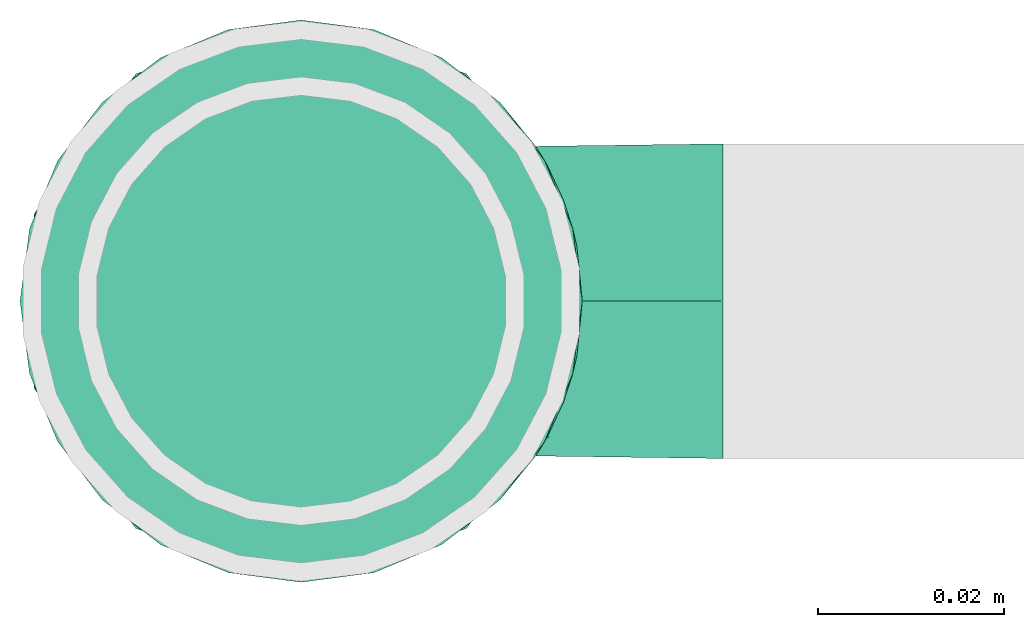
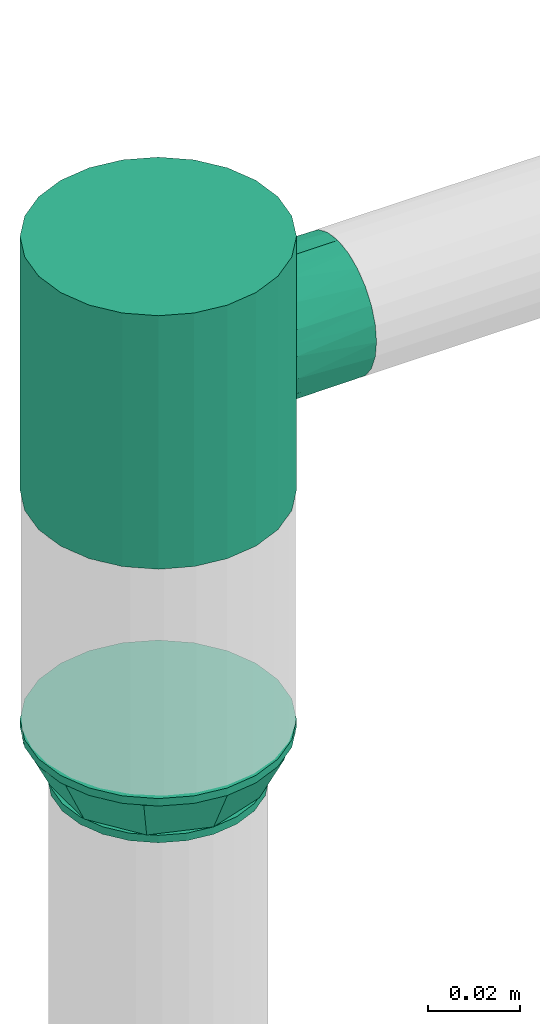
# One storey, part 2 of 2: 2 flow fittings.
"""IFC2X3 building model written with IfcOpenShell, lengths in millimetres."""

from ifc_helpers import new_model, entity, si_unit, converted_unit, derived_unit, direction, frame, origin_with_axes, place, context, subcontext, project, spatial, open_shell, surface_model, source, transform, mapped, type_object, element, save


model = new_model("IFC2X3")

# Units and contexts
model_context = context("Model", 3, precision=0.01, world=frame((0.0, 4.29681676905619e-09, 0.0)), true_north=direction((4.01073788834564e-13, 1.0)))
plan_context = context("Plan", 3, precision=0.01, world=frame((0.0, 4.29681676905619e-09, 0.0)), true_north=direction((4.01073788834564e-13, 1.0)))
body_context = subcontext(model_context, "Body", "Model", "MODEL_VIEW")
ifc_project = project(units=[converted_unit("PLANEANGLEUNIT", "DEGREE", entity("IfcPositiveLengthMeasure", 0.0174532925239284), si_unit("PLANEANGLEUNIT", "RADIAN"), dimensions=[0, 0, 0, 0, 0, 0, 0]), si_unit("AREAUNIT", "SQUARE_METRE"), si_unit("LENGTHUNIT", "METRE", prefix="MILLI"), si_unit("MASSUNIT", "GRAM", prefix="KILO"), si_unit("POWERUNIT", "WATT"), si_unit("PRESSUREUNIT", "PASCAL", prefix="KILO"), si_unit("FORCEUNIT", "NEWTON", prefix="KILO"), si_unit("ELECTRICVOLTAGEUNIT", "VOLT"), si_unit("ELECTRICCURRENTUNIT", "AMPERE"), si_unit("THERMODYNAMICTEMPERATUREUNIT", "DEGREE_CELSIUS"), si_unit("TIMEUNIT", "SECOND"), si_unit("VOLUMEUNIT", "CUBIC_METRE"), derived_unit("LINEARVELOCITYUNIT", [(si_unit("LENGTHUNIT", "METRE"), 1), (si_unit("TIMEUNIT", "SECOND"), -1)]), derived_unit("VOLUMETRICFLOWRATEUNIT", [(si_unit("VOLUMEUNIT", "CUBIC_METRE"), 1), (si_unit("TIMEUNIT", "SECOND"), -1)]), derived_unit("THERMALTRANSMITTANCEUNIT", [(si_unit("POWERUNIT", "WATT"), 1), (si_unit("THERMODYNAMICTEMPERATUREUNIT", "KELVIN"), -1), (si_unit("AREAUNIT", "SQUARE_METRE"), -1)]), derived_unit("SOUNDPRESSUREUNIT", [(si_unit("PRESSUREUNIT", "PASCAL"), 1)])], contexts=[model_context, plan_context])

# Site, building, storey
site_placement = place(None, frame((0.0, -4.29681676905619e-09, 0.0), z_axis=(0.0, 0.0, 1.0), x_axis=(1.0, 0.0, 0.0)))
site = spatial("IfcSite", under=ifc_project, at=site_placement, CompositionType="ELEMENT")
building_placement = place(site_placement, frame((0.0, 4.29681676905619e-09, 0.0), z_axis=(0.0, 0.0, 1.0), x_axis=(1.0, 0.0, 0.0)))
building = spatial("IfcBuilding", under=site, at=building_placement, Name="mc-building", CompositionType="ELEMENT")
storey_placement = place(building_placement, frame((0.0, 0.0, 207370.0), z_axis=(0.0, 0.0, 1.0), x_axis=(1.0, 0.0, 0.0)))
storey = spatial("IfcBuildingStorey", under=building, at=storey_placement, Name="Nivå E", CompositionType="ELEMENT", Elevation=207370.0)

# Flow fittings
pipe_fitting_type_1 = type_object("IfcPipeFittingType", Name="magi_pipe_fe_reducer_centric_short_NOR", PredefinedType="TRANSITION")
shared_shape_1 = source(origin_with_axes(), body_context, "Body", "SurfaceModel", [
    surface_model("IfcShellBasedSurfaceModel", [(-2.0, 0.0, 24.2), (-2.0, 6.26342, 23.37541), (-2.0, 12.1, 20.95781), (-2.0, 17.11198, 17.11198), (-2.0, 24.2, 0.0), (-2.0, 20.95781, 12.1), (-2.0, -23.37541, 6.26342), (-2.0, -17.11198, -17.11198), (-2.0, -6.26342, 23.37541), (-2.0, -17.11198, 17.11198), (-2.0, -12.1, 20.95781), (-2.0, -20.95781, 12.1), (-2.0, -24.2, 0.0), (-2.0, 23.37541, 6.26342), (-2.0, 23.37541, -6.26342), (-2.0, 6.26342, -23.37541), (-2.0, 17.11198, -17.11198), (-2.0, 20.95781, -12.1), (-2.0, 12.1, -20.95781), (-2.0, -23.37541, -6.26342), (-2.0, -20.95781, -12.1), (-2.0, -6.26342, -23.37541), (-2.0, -12.1, -20.95781), (-2.0, 0.0, -24.2), (0.0, 24.2, 0.0), (0.0, 6.26342, -23.37541), (0.0, 12.1, -20.95781), (0.0, 23.37541, -6.26342), (0.0, 17.11198, -17.11198), (0.0, 20.95781, -12.1), (0.0, -24.2, 0.0), (0.0, -12.1, -20.95781), (0.0, -6.26342, -23.37541), (0.0, 0.0, -24.2), (0.0, -17.11198, -17.11198), (0.0, -23.37541, -6.26342), (0.0, -20.95781, -12.1), (0.0, 20.95781, 12.1), (0.0, 17.11198, 17.11198), (0.0, 12.1, 20.95781), (0.0, 6.26342, 23.37541), (0.0, 0.0, 24.2), (0.0, -23.37541, 6.26342), (0.0, -17.11198, 17.11198), (0.0, -20.95781, 12.1), (0.0, -6.26342, 23.37541), (0.0, -12.1, 20.95781), (0.0, 23.37541, 6.26342), (14.0, 15.1, -26.15397), (14.0, 15.1, 26.15397), (14.0, 7.81634, -29.17096), (14.0, 30.2, 0.0), (14.0, 21.35462, -21.35462), (14.0, 26.15397, -15.1), (14.0, 29.17096, -7.81634), (14.0, -15.1, -26.15397), (14.0, 0.0, -30.2), (14.0, -7.81634, -29.17096), (14.0, -21.35462, -21.35462), (14.0, -29.17096, -7.81634), (14.0, -26.15397, -15.1), (14.0, -29.17096, 7.81634), (14.0, 21.35462, 21.35462), (14.0, 29.17096, 7.81634), (14.0, 26.15397, 15.1), (14.0, 7.81634, 29.17096), (14.0, 0.0, 30.2), (14.0, -21.35462, 21.35462), (14.0, -7.81634, 29.17096), (14.0, -26.15397, 15.1), (14.0, -30.2, 0.0), (14.0, -15.1, 26.15397), (12.0, 0.0, 30.2), (12.0, 7.81634, 29.17096), (12.0, 15.1, 26.15397), (12.0, -29.17096, 7.81634), (12.0, 21.35462, 21.35462), (12.0, 26.15397, 15.1), (12.0, 29.17096, 7.81634), (12.0, 29.17096, -7.81634), (12.0, -7.81634, 29.17096), (12.0, -21.35462, 21.35462), (12.0, -15.1, 26.15397), (12.0, -26.15397, 15.1), (12.0, -29.17096, -7.81634), (12.0, -30.2, 0.0), (12.0, 30.2, 0.0), (12.0, 26.15397, -15.1), (12.0, 7.81634, -29.17096), (12.0, 21.35462, -21.35462), (12.0, 15.1, -26.15397), (12.0, -15.1, -26.15397), (12.0, -21.35462, -21.35462), (12.0, -26.15397, -15.1), (12.0, 0.0, -30.2), (12.0, -7.81634, -29.17096), (12.0, 9.33231, 28.72191), (12.0, -9.33231, 28.72191), (12.0, 24.43231, -17.75111), (12.0, 24.43231, 17.75111), (12.0, -24.43231, 17.75111), (12.0, -24.43231, -17.75111), (12.0, -9.33231, -28.72191), (12.0, 9.33231, -28.72191), (0.0, -7.47821, 23.01557), (0.0, 7.47821, 23.01557), (0.0, -19.57821, 14.2244), (0.0, -19.57821, -14.2244), (0.0, 19.57821, 14.2244), (0.0, 19.57821, -14.2244), (0.0, 7.47821, -23.01557), (0.0, -7.47821, -23.01557), (12.0, -27.31616, -8.87556), (0.0, -21.8891, -7.1122), (0.0, -13.52821, -18.61999), (12.0, -16.88231, -23.23651), (12.0, 0.0, -28.72191), (0.0, 0.0, -23.01557), (12.0, 27.31616, -8.87556), (12.0, 16.88231, -23.23651), (0.0, 13.52821, -18.61999), (0.0, 22.02177, -6.7039), (12.0, 27.31616, 8.87556), (0.0, 21.8891, 7.1122), (0.0, 13.52821, 18.61999), (12.0, 16.88231, 23.23651), (12.0, 0.0, 28.72191), (0.0, 0.0, 23.01557), (12.0, -27.31616, 8.87556), (12.0, -16.88231, 23.23651), (0.0, -13.52821, 18.61999), (0.0, -22.02177, 6.7039)], [open_shell([[[0, 1, 2]], [[0, 2, 3]], [[4, 3, 5]], [[6, 0, 7]], [[0, 3, 7]], [[8, 9, 10]], [[8, 0, 9]], [[9, 6, 11]], [[0, 6, 9]], [[6, 7, 12]], [[4, 5, 13]], [[3, 14, 15]], [[16, 14, 17]], [[18, 15, 14]], [[18, 14, 16]], [[15, 7, 3]], [[19, 7, 20]], [[12, 7, 19]], [[15, 21, 22]], [[22, 7, 15]], [[21, 15, 23]], [[14, 3, 4]], [[24, 25, 26]], [[27, 26, 28]], [[27, 24, 26]], [[27, 28, 29]], [[25, 30, 31]], [[25, 32, 33]], [[25, 31, 32]], [[34, 35, 36]], [[34, 31, 30]], [[34, 30, 35]], [[25, 24, 37]], [[37, 38, 25]], [[25, 38, 30]], [[39, 40, 41]], [[39, 41, 38]], [[30, 38, 41]], [[42, 43, 44]], [[45, 42, 30]], [[43, 45, 46]], [[45, 43, 42]], [[30, 41, 45]], [[24, 47, 37]], [[19, 35, 12]], [[20, 36, 19]], [[31, 7, 22]], [[20, 7, 34]], [[32, 22, 21]], [[19, 36, 35]], [[35, 30, 12]], [[32, 31, 22]], [[34, 7, 31]], [[34, 36, 20]], [[33, 32, 21]], [[21, 23, 33]], [[15, 25, 23]], [[18, 26, 15]], [[29, 16, 17]], [[18, 16, 28]], [[27, 17, 14]], [[18, 28, 26]], [[26, 25, 15]], [[24, 27, 14]], [[29, 17, 27]], [[29, 28, 16]], [[4, 24, 14]], [[23, 25, 33]], [[13, 47, 4]], [[5, 37, 13]], [[39, 3, 2]], [[5, 3, 38]], [[40, 2, 1]], [[13, 37, 47]], [[47, 24, 4]], [[40, 39, 2]], [[38, 3, 39]], [[38, 37, 5]], [[41, 40, 1]], [[1, 0, 41]], [[8, 45, 0]], [[10, 46, 8]], [[44, 9, 11]], [[10, 9, 43]], [[42, 11, 6]], [[10, 43, 46]], [[46, 45, 8]], [[30, 42, 6]], [[44, 11, 42]], [[44, 43, 9]], [[12, 30, 6]], [[0, 45, 41]], [[48, 49, 50]], [[51, 48, 52]], [[53, 54, 51]], [[53, 51, 52]], [[55, 50, 49]], [[56, 55, 57]], [[56, 50, 55]], [[58, 59, 60]], [[59, 58, 55]], [[55, 61, 59]], [[51, 62, 48]], [[63, 64, 62]], [[62, 49, 48]], [[49, 65, 66]], [[55, 49, 67]], [[68, 49, 66]], [[61, 67, 69]], [[70, 59, 61]], [[67, 68, 71]], [[61, 55, 67]], [[68, 67, 49]], [[63, 62, 51]], [[72, 73, 74]], [[75, 72, 74]], [[76, 77, 78]], [[74, 76, 75]], [[76, 79, 75]], [[80, 81, 82]], [[80, 72, 81]], [[81, 75, 83]], [[72, 75, 81]], [[75, 84, 85]], [[86, 76, 78]], [[79, 87, 75]], [[87, 88, 75]], [[89, 90, 88]], [[89, 88, 87]], [[88, 91, 75]], [[84, 92, 93]], [[92, 84, 91]], [[91, 94, 95]], [[84, 75, 91]], [[88, 94, 91]], [[79, 76, 86]], [[84, 59, 85]], [[93, 60, 84]], [[55, 92, 91]], [[93, 92, 58]], [[57, 91, 95]], [[84, 60, 59]], [[59, 70, 85]], [[57, 55, 91]], [[58, 92, 55]], [[58, 60, 93]], [[56, 57, 95]], [[95, 94, 56]], [[88, 50, 94]], [[90, 48, 88]], [[53, 89, 87]], [[90, 89, 52]], [[54, 87, 79]], [[90, 52, 48]], [[48, 50, 88]], [[51, 54, 79]], [[53, 87, 54]], [[53, 52, 89]], [[86, 51, 79]], [[94, 50, 56]], [[78, 63, 86]], [[77, 64, 78]], [[49, 76, 74]], [[77, 76, 62]], [[65, 74, 73]], [[78, 64, 63]], [[63, 51, 86]], [[65, 49, 74]], [[62, 76, 49]], [[62, 64, 77]], [[66, 65, 73]], [[73, 72, 66]], [[80, 68, 72]], [[82, 71, 80]], [[69, 81, 83]], [[82, 81, 67]], [[61, 83, 75]], [[82, 67, 71]], [[71, 68, 80]], [[70, 61, 75]], [[69, 83, 61]], [[69, 67, 81]], [[85, 70, 75]], [[72, 68, 66]], [[85, 96, 97]], [[96, 98, 99]], [[86, 99, 98]], [[85, 97, 100]], [[85, 101, 98]], [[98, 102, 103]], [[102, 98, 101]], [[85, 98, 96]], [[104, 105, 24]], [[106, 107, 30]], [[104, 107, 106]], [[24, 105, 108]], [[24, 109, 110]], [[107, 110, 111]], [[110, 107, 24]], [[24, 107, 104]], [[112, 30, 113]], [[113, 107, 101]], [[102, 114, 111]], [[30, 112, 85]], [[113, 101, 112]], [[115, 107, 114]], [[116, 102, 111]], [[117, 103, 116]], [[103, 117, 110]], [[107, 115, 101]], [[102, 115, 114]], [[109, 118, 98]], [[110, 119, 103]], [[120, 98, 119]], [[121, 86, 118]], [[119, 110, 120]], [[121, 24, 86]], [[120, 109, 98]], [[116, 111, 117]], [[118, 109, 121]], [[122, 24, 123]], [[123, 108, 99]], [[96, 124, 105]], [[24, 122, 86]], [[123, 99, 122]], [[125, 108, 124]], [[126, 96, 105]], [[127, 97, 126]], [[97, 127, 104]], [[108, 125, 99]], [[96, 125, 124]], [[106, 128, 100]], [[104, 129, 97]], [[130, 100, 129]], [[131, 85, 128]], [[129, 104, 130]], [[131, 30, 85]], [[130, 106, 100]], [[126, 105, 127]], [[128, 106, 131]]])]),
])
flow_fitting_1_placement = place(storey_placement, frame((596244.66498, 405204.64073, -88.9500000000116), z_axis=(1.0, 0.0, 0.0), x_axis=(0.0, 0.0, 1.0)))
element("IfcFlowFitting", 1, at=flow_fitting_1_placement, inside=storey, type_object=pipe_fitting_type_1, Name="magi_pipe_fe_reducer_centric_short_NOR", context=body_context, shape_type="MappedRepresentation", body=[
    mapped(shared_shape_1, transform((0.0, 0.0, 0.0), scale=1.0)),
])
pipe_fitting_type_2 = type_object("IfcPipeFittingType", Name="magi_pipe_fe_tee_centric_90_NOR", PredefinedType="JUNCTION")
shared_shape_2 = source(origin_with_axes(), body_context, "Body", "SurfaceModel", [
    surface_model("IfcShellBasedSurfaceModel", [(-33.8, 15.1, -26.15397), (-33.8, 7.81634, -29.17096), (-33.8, 0.0, -30.2), (-33.8, 29.17096, -7.81634), (-33.8, 26.15397, -15.1), (-33.8, 21.35462, -21.35462), (-33.8, 30.2, 0.0), (-33.8, -30.2, 0.0), (-33.8, -15.1, -26.15397), (-33.8, -21.35462, -21.35462), (-33.8, -7.81634, -29.17096), (-33.8, -26.15397, -15.1), (-33.8, -29.17096, -7.81634), (-33.8, 26.15397, 15.1), (-33.8, 29.17096, 7.81634), (-33.8, 15.1, 26.15397), (-33.8, -21.35462, 21.35462), (-33.8, 21.35462, 21.35462), (-33.8, 7.81634, 29.17096), (-33.8, -29.17096, 7.81634), (-33.8, -26.15397, 15.1), (-33.8, -7.81634, 29.17096), (-33.8, 0.0, 30.2), (-33.8, -15.1, 26.15397), (33.8, 29.17096, -7.81634), (33.8, 0.0, -30.2), (33.8, 7.81634, -29.17096), (33.8, 21.35462, -21.35462), (33.8, 15.1, -26.15397), (33.8, 26.15397, -15.1), (33.8, -30.2, 0.0), (33.8, -7.81634, -29.17096), (33.8, -21.35462, -21.35462), (33.8, -15.1, -26.15397), (33.8, -29.17096, -7.81634), (33.8, -26.15397, -15.1), (33.8, 30.2, 0.0), (33.8, 29.17096, 7.81634), (33.8, 26.15397, 15.1), (33.8, -29.17096, 7.81634), (33.8, 15.1, 26.15397), (33.8, 7.81634, 29.17096), (33.8, 21.35462, 21.35462), (33.8, -21.35462, 21.35462), (33.8, -26.15397, 15.1), (33.8, -15.1, 26.15397), (33.8, 0.0, 30.2), (33.8, -7.81634, 29.17096), (33.8, -29.68548, 3.90817), (15.846, -29.62306, 5.87488), (16.373, -29.91153, 2.93744), (12.91037, -28.16217, 10.90561), (2.99213, -25.2068, 16.63301), (16.9, -30.2, 0.0), (33.8, -27.66246, 11.45817), (8.50854, -26.43531, 14.60187), (-8.51006, -26.43579, 14.60099), (-33.8, -27.66246, 11.45817), (-12.91447, -28.16405, 10.90075), (-15.84655, -29.62335, 5.87341), (-33.8, -29.68548, 3.90817), (-16.37327, -29.91168, 2.93671), (-16.9, -30.2, 0.0), (-2.99705, -25.20739, 16.63213), (2.99213, -25.2068, -16.63301), (-16.37327, -29.91168, -2.93671), (8.50854, -26.43531, -14.60187), (33.8, -27.66246, -11.45817), (16.373, -29.91153, -2.93744), (-33.8, -29.68548, -3.90817), (-15.84655, -29.62335, -5.87341), (15.846, -29.62306, -5.87488), (12.91037, -28.16217, -10.90561), (33.8, -29.68548, -3.90817), (-2.99705, -25.20739, -16.63213), (-8.51006, -26.43579, -14.60099), (-12.91447, -28.16405, -10.90075), (-33.8, -27.66246, -11.45817), (4.37404, -45.3, -16.32415), (-16.9, -45.3, 0.0), (0.0, -45.3, -16.9), (14.63583, -45.3, -8.45), (8.45, -45.3, -14.63583), (16.32415, -45.3, -4.37404), (11.9501, -45.3, -11.9501), (-11.9501, -45.3, -11.9501), (-8.45, -45.3, -14.63583), (-4.37404, -45.3, -16.32415), (-14.63583, -45.3, -8.45), (-16.32415, -45.3, -4.37404), (16.9, -45.3, 0.0), (8.45, -45.3, 14.63583), (16.32415, -45.3, 4.37404), (14.63583, -45.3, 8.45), (-8.45, -45.3, 14.63583), (11.9501, -45.3, 11.9501), (4.37404, -45.3, 16.32415), (-16.32415, -45.3, 4.37404), (-11.9501, -45.3, 11.9501), (-14.63583, -45.3, 8.45), (0.0, -45.3, 16.9), (-4.37404, -45.3, 16.32415), (-5.75355, -25.82159, 15.61656), (-0.00246, -25.20709, 16.63257), (5.75034, -25.82105, 15.61744), (5.75034, -25.82105, -15.61744), (-0.00246, -25.20709, -16.63257), (-5.75355, -25.82159, -15.61656)], [open_shell([[[0, 1, 2]], [[3, 0, 2]], [[0, 3, 4]], [[5, 0, 4]], [[6, 2, 7]], [[8, 9, 10]], [[9, 2, 10]], [[11, 12, 9]], [[7, 9, 12]], [[9, 7, 2]], [[6, 3, 2]], [[13, 14, 6]], [[7, 15, 13]], [[7, 16, 15]], [[17, 13, 15]], [[18, 15, 16]], [[19, 20, 7]], [[7, 20, 16]], [[21, 22, 23]], [[16, 23, 22]], [[16, 22, 18]], [[7, 13, 6]], [[24, 25, 26]], [[27, 26, 28]], [[29, 24, 26]], [[29, 26, 27]], [[25, 24, 30]], [[31, 32, 33]], [[32, 31, 34]], [[32, 34, 35]], [[34, 31, 30]], [[31, 25, 30]], [[24, 36, 30]], [[36, 37, 38]], [[39, 36, 38]], [[40, 41, 38]], [[40, 38, 42]], [[43, 38, 41]], [[39, 43, 44]], [[39, 38, 43]], [[45, 46, 47]], [[46, 45, 43]], [[41, 46, 43]], [[36, 39, 30]], [[48, 39, 49]], [[30, 48, 50]], [[39, 51, 49]], [[44, 43, 52]], [[30, 50, 53]], [[51, 54, 55]], [[52, 55, 44]], [[48, 49, 50]], [[43, 16, 52]], [[55, 54, 44]], [[56, 57, 58]], [[59, 60, 61]], [[62, 61, 7]], [[59, 58, 19]], [[56, 63, 20]], [[51, 39, 54]], [[20, 57, 56]], [[20, 63, 16]], [[58, 57, 19]], [[63, 52, 16]], [[7, 61, 60]], [[59, 19, 60]], [[43, 23, 16]], [[22, 47, 46]], [[21, 45, 47]], [[18, 46, 41]], [[38, 37, 14]], [[17, 40, 42]], [[13, 42, 38]], [[41, 40, 15]], [[6, 37, 36]], [[23, 45, 21]], [[21, 47, 22]], [[18, 22, 46]], [[41, 15, 18]], [[15, 40, 17]], [[13, 17, 42]], [[14, 13, 38]], [[37, 6, 14]], [[45, 23, 43]], [[4, 24, 29]], [[3, 36, 24]], [[5, 29, 27]], [[25, 31, 10]], [[1, 28, 26]], [[2, 26, 25]], [[27, 28, 0]], [[8, 31, 33]], [[6, 36, 3]], [[3, 24, 4]], [[5, 4, 29]], [[27, 0, 5]], [[0, 28, 1]], [[2, 1, 26]], [[10, 2, 25]], [[31, 8, 10]], [[33, 9, 8]], [[32, 35, 64]], [[7, 65, 62]], [[66, 64, 35]], [[67, 66, 35]], [[32, 64, 9]], [[53, 68, 30]], [[69, 70, 65]], [[71, 72, 34]], [[71, 73, 68]], [[66, 67, 72]], [[34, 72, 67]], [[74, 75, 11]], [[76, 12, 77]], [[11, 9, 74]], [[76, 77, 75]], [[74, 9, 64]], [[76, 70, 12]], [[71, 34, 73]], [[70, 69, 12]], [[65, 7, 69]], [[30, 68, 73]], [[77, 11, 75]], [[32, 9, 33]], [[78, 79, 80]], [[81, 78, 82]], [[81, 83, 78]], [[81, 82, 84]], [[79, 78, 83]], [[80, 85, 86]], [[86, 87, 80]], [[88, 79, 89]], [[85, 80, 88]], [[79, 88, 80]], [[83, 90, 79]], [[91, 90, 92]], [[91, 92, 93]], [[94, 79, 91]], [[91, 93, 95]], [[94, 91, 96]], [[97, 98, 99]], [[98, 97, 94]], [[94, 100, 101]], [[97, 79, 94]], [[96, 100, 94]], [[91, 79, 90]], [[97, 61, 79]], [[58, 99, 98]], [[97, 99, 59]], [[98, 94, 56]], [[61, 62, 79]], [[59, 99, 58]], [[101, 63, 102]], [[56, 58, 98]], [[100, 52, 103]], [[91, 104, 96]], [[100, 96, 52]], [[50, 49, 92]], [[50, 90, 53]], [[104, 91, 55]], [[102, 94, 101]], [[102, 56, 94]], [[100, 63, 101]], [[97, 59, 61]], [[55, 91, 95]], [[95, 51, 55]], [[52, 96, 104]], [[92, 49, 93]], [[90, 50, 92]], [[93, 49, 51]], [[93, 51, 95]], [[103, 63, 100]], [[83, 68, 90]], [[72, 81, 84]], [[83, 81, 71]], [[84, 82, 66]], [[68, 53, 90]], [[71, 81, 72]], [[78, 64, 105]], [[66, 72, 84]], [[80, 74, 106]], [[86, 107, 87]], [[65, 70, 89]], [[105, 82, 78]], [[105, 66, 82]], [[75, 86, 85]], [[83, 71, 68]], [[70, 88, 89]], [[65, 79, 62]], [[85, 88, 76]], [[80, 64, 78]], [[87, 107, 74]], [[74, 80, 87]], [[75, 107, 86]], [[75, 85, 76]], [[76, 88, 70]], [[79, 65, 89]], [[106, 64, 80]]])]),
])
flow_fitting_2_placement = place(storey_placement, frame((596244.66498, 405204.64073, 20.0), z_axis=(0.0, -1.0, 0.0), x_axis=(0.0, 0.0, 1.0)))
element("IfcFlowFitting", 2, at=flow_fitting_2_placement, inside=storey, type_object=pipe_fitting_type_2, Name="magi_pipe_fe_tee_centric_90_NOR", context=body_context, shape_type="MappedRepresentation", body=[
    mapped(shared_shape_2, transform((0.0, 0.0, 0.0), scale=1.0)),
])

save(model, "model.ifc")
